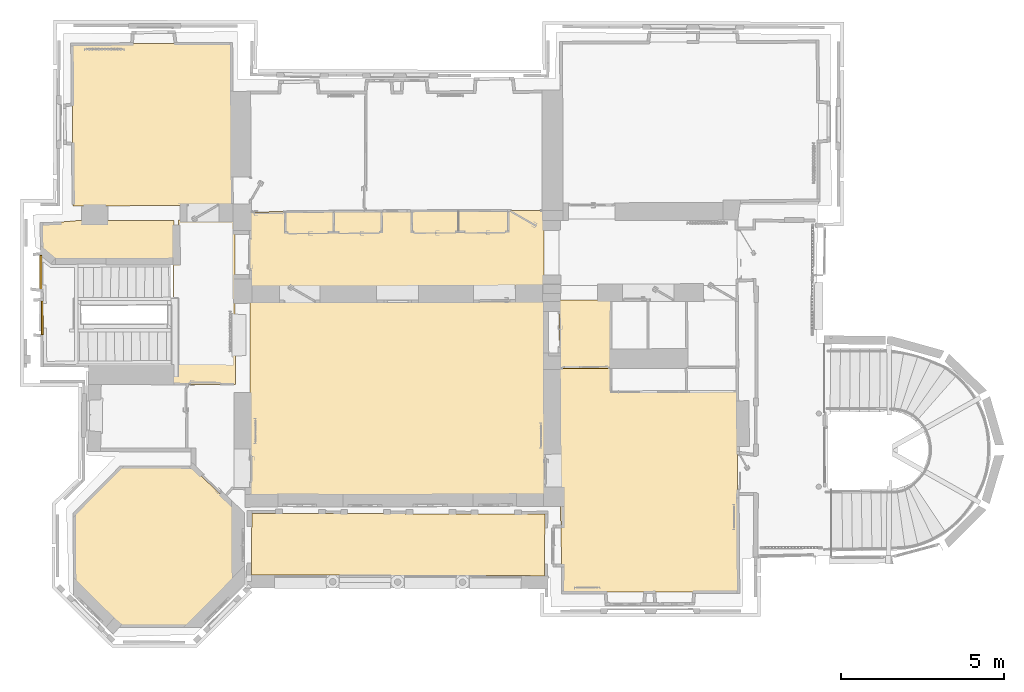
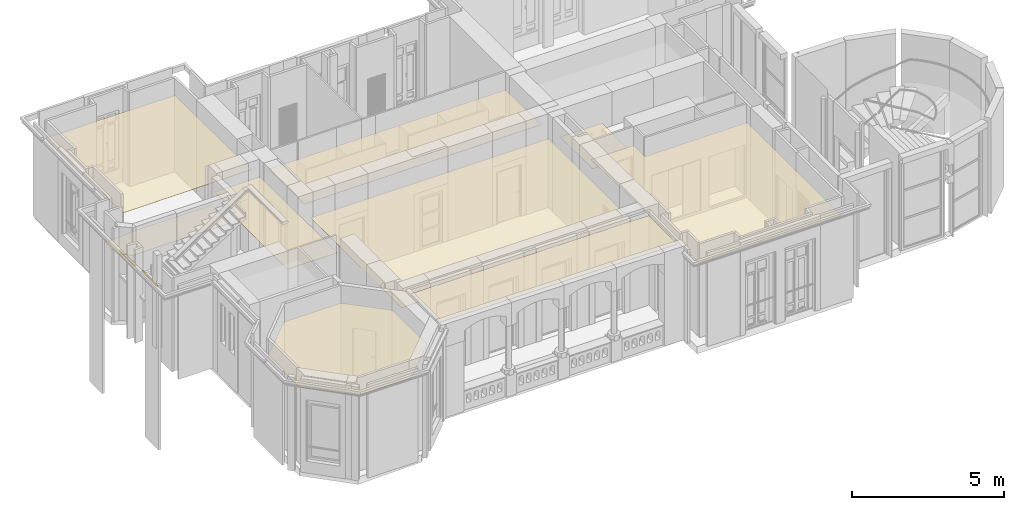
# One storey, part 54 of 66: 9 coverings, 2 railings.
"""IFC2X3 building model written with IfcOpenShell, lengths in centimetres."""

from ifc_helpers import new_model, entity, si_unit, converted_unit, direction, frame, origin, origin_with_axes, place, context, subcontext, project, spatial, faceted_brep, shape, source, transform, mapped, material, material_list, type_object, element, save


model = new_model("IFC2X3")

# Units and contexts
model_context = context("Model", 3, precision=0.0001, world=origin(), true_north=direction((0.225632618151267, 0.974212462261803, 0.0)))
body_context = subcontext(model_context, "Body", "Model", "MODEL_VIEW")
ifc_project = project(units=[si_unit("LENGTHUNIT", "METRE", prefix="CENTI"), si_unit("AREAUNIT", "SQUARE_METRE", prefix="CENTI"), si_unit("VOLUMEUNIT", "CUBIC_METRE", prefix="CENTI"), converted_unit("PLANEANGLEUNIT", "DEGREE", entity("IfcRatioMeasure", 0.0174532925), si_unit("PLANEANGLEUNIT", "RADIAN"), dimensions=[0, 0, 0, 0, 0, 0, 0])], contexts=[model_context])

# Site, building, storey
site_placement = place(None, origin_with_axes())
site = spatial("IfcSite", under=ifc_project, at=site_placement, Name="Default Site", CompositionType="ELEMENT")
building_placement = place(site_placement, origin_with_axes())
building = spatial("IfcBuilding", under=site, at=building_placement, Name="Default Building", CompositionType="ELEMENT")
storey_placement = place(building_placement, frame((0.0, 0.0, 477.795358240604), z_axis=(0.0, 0.0, 1.0), x_axis=(1.0, 0.0, 0.0)))
storey = spatial("IfcBuildingStorey", under=building, at=storey_placement, Name="Niveau 1", CompositionType="ELEMENT", Elevation=477.795358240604)

# Railings
ifc_material_1 = material(Name="Fer")
ifc_material_2 = material(Name="Aluminium mat")
ifc_material_list = material_list([ifc_material_1, ifc_material_2])
railing_type = type_object("IfcRailingType", Name="Balustrade [FV]", PredefinedType="NOTDEFINED", material=ifc_material_list)
shared_shape_1 = source(origin_with_axes(), body_context, "Body", "Brep", [
    faceted_brep([(-1304.91361618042, -53.6914587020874, 757.795381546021), (-1310.91356277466, -53.6801934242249, 757.795381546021), (-1310.7177734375, 50.6412267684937, 757.795381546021), (-1304.71782684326, 50.6299614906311, 757.795381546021), (-1310.91356277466, -53.6801934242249, 760.79535484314), (-1310.71777343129, 50.641226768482, 760.79535484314), (-1310.71777343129, 50.641226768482, 757.795381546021), (-1304.91361618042, -53.6914587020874, 760.79535484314), (-1304.71782684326, 50.6299614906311, 760.79535484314), (-1310.7177734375, 50.6412267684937, 760.79535484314), (-1304.71782683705, 50.6299614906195, 757.795381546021), (-1304.71782683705, 50.6299614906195, 760.79535484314), (-1310.71777344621, 50.6412221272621, 757.795381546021), (-1310.71777344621, 50.6412221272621, 760.79535484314), (-1310.91356278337, -53.6801980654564, 760.79535484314), (-1310.91356278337, -53.6801980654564, 757.795381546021)], [[[0, 1, 2, 3]], [[1, 4, 5, 6]], [[4, 7, 8, 9]], [[7, 0, 10, 11]], [[3, 12, 13, 8]], [[7, 14, 15, 0]]]),
])
shared_shape_2 = source(origin_with_axes(), body_context, "Body", "Brep", [
    faceted_brep([(-1307.25421905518, -48.6870557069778, 650.645351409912), (-1309.7541809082, -48.682364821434, 650.645351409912), (-1309.57717895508, 45.6390708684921, 650.645351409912), (-1307.07721710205, 45.6343799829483, 650.645351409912), (-1309.7541809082, -48.682364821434, 652.145385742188), (-1309.57717895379, 45.6390708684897, 652.145385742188), (-1309.57717895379, 45.6390708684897, 650.645351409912), (-1307.25421905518, -48.6870557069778, 652.145385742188), (-1307.07721710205, 45.6343799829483, 652.145385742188), (-1309.57717895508, 45.6390708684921, 652.145385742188), (-1307.07721710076, 45.6343799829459, 650.645351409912), (-1307.07721710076, 45.6343799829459, 652.145385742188), (-1309.57717895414, 45.6390713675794, 650.645351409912), (-1309.57717895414, 45.6390713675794, 652.145385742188), (-1309.75418090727, -48.6823643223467, 652.145385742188), (-1309.75418090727, -48.6823643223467, 650.645351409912)], [[[0, 1, 2, 3]], [[1, 4, 5, 6]], [[4, 7, 8, 9]], [[7, 0, 10, 11]], [[3, 12, 13, 8]], [[7, 14, 15, 0]]]),
])
shared_shape_3 = source(origin_with_axes(), body_context, "Body", "Brep", [
    faceted_brep([(0.999999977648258, 1.99999995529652, 0.0), (-0.999999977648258, 1.99999995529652, 25.0), (0.999999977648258, 1.99999995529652, 25.0), (-0.999999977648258, 1.99999995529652, 0.0), (-0.999999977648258, -1.99999995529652, 0.0), (-0.999999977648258, -1.99999995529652, 25.0), (0.999999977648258, -1.99999995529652, 25.0), (0.999999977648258, -1.99999995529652, 0.0)], [[[0, 1, 2]], [[1, 0, 3]], [[4, 1, 3]], [[1, 4, 5]], [[4, 6, 5]], [[6, 4, 7]], [[6, 0, 2]], [[0, 6, 7]], [[6, 1, 5]], [[1, 6, 2]], [[0, 4, 3]], [[4, 0, 7]]]),
])
shared_shape_4 = source(origin_with_axes(), body_context, "Body", "Brep", [
    faceted_brep([(0.700000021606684, 0.700000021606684, 0.0), (-0.700000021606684, 0.700000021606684, 80.0000011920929), (0.700000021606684, 0.700000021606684, 80.0000011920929), (-0.700000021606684, 0.700000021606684, 0.0), (-0.700000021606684, -0.700000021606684, 0.0), (-0.700000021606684, -0.700000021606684, 80.0000011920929), (0.700000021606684, -0.700000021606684, 80.0000011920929), (0.700000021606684, -0.700000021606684, 0.0)], [[[0, 1, 2]], [[1, 0, 3]], [[4, 1, 3]], [[1, 4, 5]], [[4, 6, 5]], [[6, 4, 7]], [[6, 0, 2]], [[0, 6, 7]], [[6, 1, 5]], [[1, 6, 2]], [[0, 4, 3]], [[4, 0, 7]]]),
])
railing_1_placement = place(storey_placement, frame((-1307.7272153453, 45.63560005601, 165.6), z_axis=(0.0, 0.0, 1.0), x_axis=(1.0, 0.0, 0.0)))
element("IfcRailing", 1, at=railing_1_placement, inside=storey, type_object=railing_type, material=ifc_material_list, Name="Garde-corps 133768", PredefinedType="NOTDEFINED", shapes=[
    shape(body_context, "Body", "MappedRepresentation", [mapped(shared_shape_1, transform((1307.7272153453, -45.63560005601, -643.395358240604), x_axis=(1.0, 0.0, 0.0), y_axis=(0.0, 1.0, 0.0), z_axis=(0.0, 0.0, 1.0), scale=1.0, scale2=1.0, scale3=1.0, uniform=False))]),
    shape(body_context, "Body", "MappedRepresentation", [mapped(shared_shape_2, transform((1307.7272153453, -45.63560005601, -643.395358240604), x_axis=(1.0, 0.0, 0.0), y_axis=(0.0, 1.0, 0.0), z_axis=(0.0, 0.0, 1.0), scale=1.0, scale2=1.0, scale3=1.0, uniform=False))]),
    shape(body_context, "Body", "MappedRepresentation", [mapped(shared_shape_3, transform((-2.61708180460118e-05, -1.15807609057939e-06, 1.79648403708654e-05), x_axis=(-0.00187603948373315, -0.999998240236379, 0.0), y_axis=(0.999998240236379, -0.00187603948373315, 0.0), z_axis=(0.0, 0.0, 1.0), scale=0.999999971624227, scale2=0.999999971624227, scale3=4.63600015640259, uniform=False))]),
    shape(body_context, "Body", "MappedRepresentation", [mapped(shared_shape_3, transform((-0.176932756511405, -94.3214368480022, 1.79648403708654e-05), x_axis=(-0.00187603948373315, -0.999998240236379, 0.0), y_axis=(0.999998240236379, -0.00187603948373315, 0.0), z_axis=(0.0, 0.0, 1.0), scale=0.999999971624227, scale2=0.999999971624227, scale3=4.63600015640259, uniform=False))]),
    shape(body_context, "Body", "MappedRepresentation", [mapped(shared_shape_4, transform((-0.620963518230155, -11.1596566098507, 8.70000728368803), x_axis=(-0.00187603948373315, -0.999998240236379, 0.0), y_axis=(0.999998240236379, -0.00187603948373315, 0.0), z_axis=(0.0, 0.0, 1.0), scale=0.999999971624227, scale2=0.999999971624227, scale3=1.32124996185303, uniform=False))]),
    shape(body_context, "Body", "MappedRepresentation", [mapped(shared_shape_4, transform((-0.643470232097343, -23.1596347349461, 8.70000728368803), x_axis=(-0.00187603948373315, -0.999998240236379, 0.0), y_axis=(0.999998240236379, -0.00187603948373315, 0.0), z_axis=(0.0, 0.0, 1.0), scale=0.999999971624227, scale2=0.999999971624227, scale3=1.32124996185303, uniform=False))]),
    shape(body_context, "Body", "MappedRepresentation", [mapped(shared_shape_4, transform((-0.66597694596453, -35.1596136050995, 8.70000728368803), x_axis=(-0.00187603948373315, -0.999998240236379, 0.0), y_axis=(0.999998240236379, -0.00187603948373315, 0.0), z_axis=(0.0, 0.0, 1.0), scale=0.999999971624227, scale2=0.999999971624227, scale3=1.32124996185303, uniform=False))]),
    shape(body_context, "Body", "MappedRepresentation", [mapped(shared_shape_4, transform((-0.688483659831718, -47.1595921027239, 8.70000728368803), x_axis=(-0.00187603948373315, -0.999998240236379, 0.0), y_axis=(0.999998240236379, -0.00187603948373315, 0.0), z_axis=(0.0, 0.0, 1.0), scale=0.999999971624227, scale2=0.999999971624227, scale3=1.32124996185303, uniform=False))]),
    shape(body_context, "Body", "MappedRepresentation", [mapped(shared_shape_4, transform((-0.710990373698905, -59.1595706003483, 8.70000728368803), x_axis=(-0.00187603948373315, -0.999998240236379, 0.0), y_axis=(0.999998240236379, -0.00187603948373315, 0.0), z_axis=(0.0, 0.0, 1.0), scale=0.999999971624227, scale2=0.999999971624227, scale3=1.32124996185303, uniform=False))]),
    shape(body_context, "Body", "MappedRepresentation", [mapped(shared_shape_4, transform((-0.733497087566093, -71.1595487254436, 8.70000728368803), x_axis=(-0.00187603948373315, -0.999998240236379, 0.0), y_axis=(0.999998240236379, -0.00187603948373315, 0.0), z_axis=(0.0, 0.0, 1.0), scale=0.999999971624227, scale2=0.999999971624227, scale3=1.32124996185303, uniform=False))]),
    shape(body_context, "Body", "MappedRepresentation", [mapped(shared_shape_4, transform((-0.75600380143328, -83.1595283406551, 8.70000728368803), x_axis=(-0.00187603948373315, -0.999998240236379, 0.0), y_axis=(0.999998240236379, -0.00187603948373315, 0.0), z_axis=(0.0, 0.0, 1.0), scale=0.999999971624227, scale2=0.999999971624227, scale3=1.32124996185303, uniform=False))]),
])
shared_shape_5 = source(origin_with_axes(), body_context, "Body", "Brep", [
    faceted_brep([(-1301.09052658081, -192.814266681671, 757.795381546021), (-1307.09047317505, -192.825710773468, 757.795381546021), (-1307.28731155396, -89.7055923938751, 757.795381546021), (-1301.28736495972, -89.6941363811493, 757.795381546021), (-1307.09047317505, -192.825710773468, 760.79535484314), (-1307.28731154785, -89.7055923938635, 760.79535484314), (-1307.28731154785, -89.7055923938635, 757.795381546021), (-1301.09052658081, -192.814266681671, 760.79535484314), (-1301.28736495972, -89.6941363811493, 760.79535484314), (-1307.28731155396, -89.7055923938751, 760.79535484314), (-1301.28736497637, -89.6941363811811, 757.795381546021), (-1301.28736497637, -89.6941363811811, 760.79535484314), (-1307.28731155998, -89.7055892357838, 757.795381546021), (-1307.28731155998, -89.7055892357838, 760.79535484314), (-1307.09047315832, -192.825719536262, 760.79535484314), (-1307.09047315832, -192.825719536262, 757.795381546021)], [[[0, 1, 2, 3]], [[1, 4, 5, 6]], [[4, 7, 8, 9]], [[7, 0, 10, 11]], [[3, 12, 13, 8]], [[7, 14, 15, 0]]]),
])
shared_shape_6 = source(origin_with_axes(), body_context, "Body", "Brep", [
    faceted_brep([(-1303.45001220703, -187.818765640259, 650.645351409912), (-1305.94997406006, -187.823534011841, 650.645351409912), (-1306.12773895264, -94.7033822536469, 650.645351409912), (-1303.62777709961, -94.6986138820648, 650.645351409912), (-1305.94997406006, -187.823534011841, 652.145385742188), (-1306.12773895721, -94.7033822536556, 652.145385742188), (-1306.12773895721, -94.7033822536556, 650.645351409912), (-1303.45001220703, -187.818765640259, 652.145385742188), (-1303.62777709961, -94.6986138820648, 652.145385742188), (-1306.12773895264, -94.7033822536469, 652.145385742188), (-1303.62777710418, -94.6986138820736, 650.645351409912), (-1303.62777710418, -94.6986138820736, 652.145385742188), (-1306.12773894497, -94.7033862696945, 650.645351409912), (-1306.12773894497, -94.7033862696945, 652.145385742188), (-1305.94997405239, -187.823538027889, 652.145385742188), (-1305.94997405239, -187.823538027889, 650.645351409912)], [[[0, 1, 2, 3]], [[1, 4, 5, 6]], [[4, 7, 8, 9]], [[7, 0, 10, 11]], [[3, 12, 13, 8]], [[7, 14, 15, 0]]]),
])
railing_2_placement = place(storey_placement, frame((-1304.27778885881, -94.6998527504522, 165.6), z_axis=(0.0, 0.0, 1.0), x_axis=(1.0, 0.0, 0.0)))
element("IfcRailing", 2, at=railing_2_placement, inside=storey, type_object=railing_type, material=ifc_material_list, Name="Garde-corps 133767", PredefinedType="NOTDEFINED", shapes=[
    shape(body_context, "Body", "MappedRepresentation", [mapped(shared_shape_5, transform((1304.27778885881, 94.6998527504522, -643.395358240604), x_axis=(1.0, 0.0, 0.0), y_axis=(0.0, 1.0, 0.0), z_axis=(0.0, 0.0, 1.0), scale=1.0, scale2=1.0, scale3=1.0, uniform=False))]),
    shape(body_context, "Body", "MappedRepresentation", [mapped(shared_shape_6, transform((1304.27778885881, 94.6998527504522, -643.395358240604), x_axis=(1.0, 0.0, 0.0), y_axis=(0.0, 1.0, 0.0), z_axis=(0.0, 0.0, 1.0), scale=1.0, scale2=1.0, scale3=1.0, uniform=False))]),
    shape(body_context, "Body", "MappedRepresentation", [mapped(shared_shape_3, transform((-1.26548641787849e-05, -9.08223996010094e-07, 1.79648403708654e-05), x_axis=(0.00190923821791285, -0.999998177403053, 0.0), y_axis=(0.999998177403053, 0.00190923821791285, 0.0), z_axis=(0.0, 0.0, 1.0), scale=0.999999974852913, scale2=0.999999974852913, scale3=4.63600015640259, uniform=False))]),
    shape(body_context, "Body", "MappedRepresentation", [mapped(shared_shape_3, transform((0.177752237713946, -93.120152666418, 1.79648403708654e-05), x_axis=(0.00190923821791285, -0.999998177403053, 0.0), y_axis=(0.999998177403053, 0.00190923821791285, 0.0), z_axis=(0.0, 0.0, 1.0), scale=0.999999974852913, scale2=0.999999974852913, scale3=4.63600015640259, uniform=False))]),
    shape(body_context, "Body", "MappedRepresentation", [mapped(shared_shape_4, transform((-0.579846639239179, -10.5612823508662, 8.70000728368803), x_axis=(0.00190923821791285, -0.999998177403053, 0.0), y_axis=(0.999998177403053, 0.00190923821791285, 0.0), z_axis=(0.0, 0.0, 1.0), scale=0.999999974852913, scale2=0.999999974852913, scale3=1.32124996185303, uniform=False))]),
    shape(body_context, "Body", "MappedRepresentation", [mapped(shared_shape_4, transform((-0.556958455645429, -22.5612589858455, 8.70000728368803), x_axis=(0.00190923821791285, -0.999998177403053, 0.0), y_axis=(0.999998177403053, 0.00190923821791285, 0.0), z_axis=(0.0, 0.0, 1.0), scale=0.999999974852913, scale2=0.999999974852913, scale3=1.32124996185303, uniform=False))]),
    shape(body_context, "Body", "MappedRepresentation", [mapped(shared_shape_4, transform((-0.533974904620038, -34.5612356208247, 8.70000728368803), x_axis=(0.00190923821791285, -0.999998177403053, 0.0), y_axis=(0.999998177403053, 0.00190923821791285, 0.0), z_axis=(0.0, 0.0, 1.0), scale=0.999999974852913, scale2=0.999999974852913, scale3=1.32124996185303, uniform=False))]),
    shape(body_context, "Body", "MappedRepresentation", [mapped(shared_shape_4, transform((-0.511086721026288, -46.5612241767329, 8.70000728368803), x_axis=(0.00190923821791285, -0.999998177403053, 0.0), y_axis=(0.999998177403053, 0.00190923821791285, 0.0), z_axis=(0.0, 0.0, 1.0), scale=0.999999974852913, scale2=0.999999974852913, scale3=1.32124996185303, uniform=False))]),
    shape(body_context, "Body", "MappedRepresentation", [mapped(shared_shape_4, transform((-0.488198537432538, -58.5612008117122, 8.70000728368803), x_axis=(0.00190923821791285, -0.999998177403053, 0.0), y_axis=(0.999998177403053, 0.00190923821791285, 0.0), z_axis=(0.0, 0.0, 1.0), scale=0.999999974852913, scale2=0.999999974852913, scale3=1.32124996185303, uniform=False))]),
    shape(body_context, "Body", "MappedRepresentation", [mapped(shared_shape_4, transform((-0.465310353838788, -70.5611774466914, 8.70000728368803), x_axis=(0.00190923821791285, -0.999998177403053, 0.0), y_axis=(0.999998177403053, 0.00190923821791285, 0.0), z_axis=(0.0, 0.0, 1.0), scale=0.999999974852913, scale2=0.999999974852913, scale3=1.32124996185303, uniform=False))]),
    shape(body_context, "Body", "MappedRepresentation", [mapped(shared_shape_4, transform((-0.442326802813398, -82.5611540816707, 8.70000728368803), x_axis=(0.00190923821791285, -0.999998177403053, 0.0), y_axis=(0.999998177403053, 0.00190923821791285, 0.0), z_axis=(0.0, 0.0, 1.0), scale=0.999999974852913, scale2=0.999999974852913, scale3=1.32124996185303, uniform=False))]),
])

# Coverings
ifc_material_3 = material(Name="Blanc")
covering_1_placement = place(storey_placement, frame((-1061.64542455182, -599.947203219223, 300.098465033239), z_axis=(0.0, 0.0, 1.0), x_axis=(1.0, 0.0, 0.0)))
element("IfcCovering", 3, at=covering_1_placement, inside=storey, material=ifc_material_3, Name="Faux-plafond 132697", PredefinedType="CEILING", context=body_context, shape_type="Brep", body=[
    faceted_brep([(-143.002211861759, -144.329463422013, 1.39999996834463), (-142.254912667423, -349.929200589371, 1.39999996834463), (1.16215962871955, -488.499032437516, 1.39999996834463), (202.6787878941, -488.870297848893, 1.39999996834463), (345.805657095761, -345.188771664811, 1.39999996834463), (344.869816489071, -121.129428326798, 1.39999996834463), (218.115246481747, -0.133096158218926, 1.39999996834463), (1.21067468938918e-05, -1.09073644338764e-05, 1.39999996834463), (1.21067468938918e-05, -1.09073644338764e-05, 6.07186025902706e-06), (218.115246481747, -0.133096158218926, 6.07186025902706e-06), (344.869816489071, -121.129428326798, 6.07186025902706e-06), (345.805657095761, -345.188771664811, 6.07186025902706e-06), (202.6787878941, -488.870297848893, 6.07186025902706e-06), (1.16215962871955, -488.499032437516, 6.07186025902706e-06), (-142.254912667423, -349.929200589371, 6.07186025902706e-06), (-143.002211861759, -144.329463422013, 6.07186025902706e-06), (-142.254833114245, -349.929200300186, 6.07186025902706e-06), (-142.254833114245, -349.929200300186, 1.39999996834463), (1.16213738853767, -488.499055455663, 6.07186025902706e-06), (1.16213738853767, -488.499055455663, 1.39999996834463), (202.678787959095, -488.870262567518, 6.07186025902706e-06), (202.678787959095, -488.870262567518, 1.39999996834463), (345.805648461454, -345.188763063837, 6.07186025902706e-06), (345.805648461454, -345.188763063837, 1.39999996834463), (344.869822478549, -121.129428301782, 6.07186025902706e-06), (344.869822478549, -121.129428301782, 1.39999996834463), (218.11524162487, -0.133101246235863, 6.07186025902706e-06), (218.11524162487, -0.133101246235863, 1.39999996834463), (1.21265458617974e-05, 2.1533526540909e-05, 6.07186025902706e-06), (1.21265458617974e-05, 2.1533526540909e-05, 1.39999996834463), (-143.002214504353, -144.329460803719, 6.07186025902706e-06), (-143.002214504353, -144.329460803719, 1.39999996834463)], [[[0, 1, 2, 3, 4, 5, 6, 7]], [[8, 9, 10, 11, 12, 13, 14, 15]], [[15, 16, 17, 0]], [[14, 18, 19, 1]], [[13, 20, 21, 2]], [[12, 22, 23, 3]], [[11, 24, 25, 4]], [[10, 26, 27, 5]], [[9, 28, 29, 6]], [[8, 30, 31, 7]]]),
])
covering_2_placement = place(storey_placement, frame((-899.477841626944, -345.760500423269, 300.506157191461), z_axis=(0.0, 0.0, 1.0), x_axis=(1.0, 0.0, 0.0)))
element("IfcCovering", 4, at=covering_2_placement, inside=storey, material=ifc_material_3, Name="Faux-plafond 132688", PredefinedType="CEILING", context=body_context, shape_type="Brep", body=[
    faceted_brep([(16.0156986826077, 370.072937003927, 1.40000358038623), (-1.77643083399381, 369.987513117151, 1.40000358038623), (-2.16848238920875e-05, 1.19131371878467e-05, 1.40000358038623), (189.788558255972, -0.561034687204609, 1.40000358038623), (187.746741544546, 504.981839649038, 1.40000358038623), (14.1194126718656, 504.675590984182, 1.40000358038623), (14.1194126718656, 504.675590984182, 9.6839018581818e-06), (187.746741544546, 504.981839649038, 9.6839018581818e-06), (189.788558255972, -0.561034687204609, 9.6839018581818e-06), (-2.16848238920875e-05, 1.19131371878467e-05, 9.6839018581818e-06), (-1.77643083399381, 369.987513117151, 9.6839018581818e-06), (16.0156986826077, 370.072937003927, 9.6839018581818e-06), (-1.77643083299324, 369.987512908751, 9.6839018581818e-06), (-1.77643083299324, 369.987512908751, 1.40000358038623), (-3.59682191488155e-05, 1.18445593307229e-05, 9.6839018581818e-06), (-3.59682191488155e-05, 1.18445593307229e-05, 1.40000358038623), (189.78855829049, -0.561023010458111, 9.6839018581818e-06), (189.78855829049, -0.561023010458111, 1.40000358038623), (187.746718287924, 504.981839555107, 9.6839018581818e-06), (187.746718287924, 504.981839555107, 1.40000358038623), (14.1194126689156, 504.675592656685, 9.6839018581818e-06), (14.1194126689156, 504.675592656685, 1.40000358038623), (16.0156867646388, 370.072936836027, 9.6839018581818e-06), (16.0156867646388, 370.072936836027, 1.40000358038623)], [[[0, 1, 2, 3, 4, 5]], [[6, 7, 8, 9, 10, 11]], [[11, 12, 13, 0]], [[10, 14, 15, 1]], [[9, 16, 17, 2]], [[8, 18, 19, 3]], [[7, 20, 21, 4]], [[6, 22, 23, 5]]]),
])
covering_3_placement = place(storey_placement, frame((444.480789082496, -296.261207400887, 296.615015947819), z_axis=(0.0, 0.0, 1.0), x_axis=(1.0, 0.0, 0.0)))
element("IfcCovering", 5, at=covering_3_placement, inside=storey, material=ifc_material_3, Name="Faux-plafond 128665", PredefinedType="CEILING", context=body_context, shape_type="Brep", body=[
    faceted_brep([(-149.753201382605, -688.527305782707, 1.40001056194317), (390.173256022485, -687.696464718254, 1.40001056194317), (389.224731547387, -71.294983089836, 1.40001056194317), (-0.204265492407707, -72.9048807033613, 1.40001056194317), (0.214063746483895, 0.00170880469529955, 1.40001056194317), (-162.898743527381, -0.266583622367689, 1.40001056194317), (-162.898743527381, -0.266583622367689, 1.66654587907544e-05), (0.214063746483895, 0.00170880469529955, 1.66654587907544e-05), (-0.204265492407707, -72.9048807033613, 1.66654587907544e-05), (389.224731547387, -71.294983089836, 1.66654587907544e-05), (390.173256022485, -687.696464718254, 1.66654587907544e-05), (-149.753201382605, -688.527305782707, 1.66654587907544e-05), (390.17325606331, -687.696491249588, 1.66654587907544e-05), (390.17325606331, -687.696491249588, 1.40001056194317), (389.224765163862, -71.2949830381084, 1.66654587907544e-05), (389.224765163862, -71.2949830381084, 1.40001056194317), (-0.204265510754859, -72.9048762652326, 1.66654587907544e-05), (-0.204265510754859, -72.9048762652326, 1.40001056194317), (0.214041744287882, 0.00170893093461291, 1.66654587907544e-05), (0.214041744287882, 0.00170893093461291, 1.40001056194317), (-162.898743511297, -0.266593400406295, 1.66654587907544e-05), (-162.898743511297, -0.266593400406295, 1.40001056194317), (-149.753189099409, -688.527305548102, 1.66654587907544e-05), (-149.753189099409, -688.527305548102, 1.40001056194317)], [[[0, 1, 2, 3, 4, 5]], [[6, 7, 8, 9, 10, 11]], [[11, 12, 13, 0]], [[10, 14, 15, 1]], [[9, 16, 17, 2]], [[8, 18, 19, 3]], [[7, 20, 21, 4]], [[6, 22, 23, 5]]]),
])
covering_4_placement = place(storey_placement, frame((-665.368569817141, -91.1362139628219, 271.115015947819), z_axis=(0.0, 0.0, 1.0), x_axis=(1.0, 0.0, 0.0)))
element("IfcCovering", 6, at=covering_4_placement, inside=storey, material=ifc_material_3, Name="Faux-plafond 111276", PredefinedType="CEILING", context=body_context, shape_type="Brep", body=[
    faceted_brep([(0.576938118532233, -597.231820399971, 1.39999911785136), (907.860411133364, -594.561007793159, 1.39999911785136), (906.048406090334, 2.13311595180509, 1.39999911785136), (1.28408222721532e-05, 2.80597683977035e-06, 1.39999911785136), (1.28408222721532e-05, 2.80597683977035e-06, 5.22136698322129e-06), (906.048406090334, 2.13311595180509, 5.22136698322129e-06), (907.860411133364, -594.561007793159, 5.22136698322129e-06), (0.576938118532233, -597.231820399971, 5.22136698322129e-06), (907.860411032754, -594.56097361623, 5.22136698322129e-06), (907.860411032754, -594.56097361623, 1.39999911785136), (906.048424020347, 2.13311600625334, 5.22136698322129e-06), (906.048424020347, 2.13311600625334, 1.39999911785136), (1.28433242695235e-05, 1.74324391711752e-06, 5.22136698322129e-06), (1.28433242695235e-05, 1.74324391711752e-06, 1.39999911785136), (0.576928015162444, -597.231820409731, 5.22136698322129e-06), (0.576928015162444, -597.231820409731, 1.39999911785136)], [[[0, 1, 2, 3]], [[4, 5, 6, 7]], [[7, 8, 9, 0]], [[6, 10, 11, 1]], [[5, 12, 13, 2]], [[4, 14, 15, 3]]]),
])
covering_5_placement = place(storey_placement, frame((-1212.17470137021, 702.649297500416, 302.115015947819), z_axis=(0.0, 0.0, 1.0), x_axis=(1.0, 0.0, 0.0)))
element("IfcCovering", 7, at=covering_5_placement, inside=storey, material=ifc_material_3, Name="Faux-plafond 115764", PredefinedType="CEILING", context=body_context, shape_type="Brep", body=[
    faceted_brep([(3.83739439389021, -500.667204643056, 1.3999933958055), (494.560002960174, -496.420779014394, 1.3999933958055), (490.23032156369, -0.762214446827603, 1.3999933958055), (-3.20465254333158e-07, 9.7505600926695e-06, 1.3999933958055), (-3.20465254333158e-07, 9.7505600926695e-06, -5.00678876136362e-07), (490.23032156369, -0.762214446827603, -5.00678876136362e-07), (494.560002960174, -496.420779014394, -5.00678876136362e-07), (3.83739439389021, -500.667204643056, -5.00678876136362e-07), (494.560003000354, -496.42078365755, -5.00678876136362e-07), (494.560003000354, -496.42078365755, 1.3999933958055), (490.230321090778, -0.762214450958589, -5.00678876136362e-07), (490.230321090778, -0.762214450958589, 1.3999933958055), (-3.44540360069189e-07, -5.73384284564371e-06, -5.00678876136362e-07), (-3.44540360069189e-07, -5.73384284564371e-06, 1.3999933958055), (3.83736989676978, -500.667204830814, -5.00678876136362e-07), (3.83736989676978, -500.667204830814, 1.3999933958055)], [[[0, 1, 2, 3]], [[4, 5, 6, 7]], [[7, 8, 9, 0]], [[6, 10, 11, 1]], [[5, 12, 13, 2]], [[4, 14, 15, 3]]]),
])
covering_6_placement = place(storey_placement, frame((-665.341544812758, 184.764821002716, 298.706157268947), z_axis=(0.0, 0.0, 1.0), x_axis=(1.0, 0.0, 0.0)))
element("IfcCovering", 8, at=covering_6_placement, inside=storey, material=ifc_material_3, Name="Faux-plafond 104278", PredefinedType="CEILING", context=body_context, shape_type="Brep", body=[
    faceted_brep([(1.55747002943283, -232.664302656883, 1.39999091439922), (905.154324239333, -227.460012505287, 1.39999091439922), (903.961611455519, 4.33670811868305, 1.39999091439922), (-2.31804060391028e-05, 5.29504413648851e-06, 1.39999091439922), (-2.31804060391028e-05, 5.29504413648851e-06, -2.98208515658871e-06), (903.961611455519, 4.33670811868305, -2.98208515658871e-06), (905.154324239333, -227.460012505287, -2.98208515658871e-06), (1.55747002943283, -232.664302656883, -2.98208515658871e-06), (905.15432423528, -227.460011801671, -2.98208515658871e-06), (905.15432423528, -227.460011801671, 1.39999091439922), (903.961606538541, 4.33670809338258, -2.98208515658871e-06), (903.961606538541, 4.33670809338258, 1.39999091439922), (-2.31583843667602e-05, 7.04753617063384e-07, -2.98208515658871e-06), (-2.31583843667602e-05, 7.04753617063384e-07, 1.39999091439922), (1.55746112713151, -232.664302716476, -2.98208515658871e-06), (1.55746112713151, -232.664302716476, 1.39999091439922)], [[[0, 1, 2, 3]], [[4, 5, 6, 7]], [[7, 8, 9, 0]], [[6, 10, 11, 1]], [[5, 12, 13, 2]], [[4, 14, 15, 3]]]),
])
covering_7_placement = place(storey_placement, frame((-1306.65010082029, 148.097189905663, 251.115015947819), z_axis=(0.0, 0.0, 1.0), x_axis=(1.0, 0.0, 0.0)))
element("IfcCovering", 9, at=covering_7_placement, inside=storey, material=ifc_material_3, Name="Faux-plafond 116302", PredefinedType="CEILING", context=body_context, shape_type="Brep", body=[
    faceted_brep([(1.48929225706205, -76.1723485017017, 1.4000181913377), (41.284214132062, -110.338416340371, 1.4000181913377), (409.419475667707, -109.396496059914, 1.4000181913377), (407.79555904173, 10.649434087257, 1.4000181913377), (118.404136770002, 10.39282417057, 1.4000181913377), (3.44445620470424e-05, 3.33545648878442e-06, 1.4000181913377), (3.44445620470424e-05, 3.33545648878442e-06, -2.33888624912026e-05), (118.404136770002, 10.39282417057, -2.33888624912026e-05), (407.79555904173, 10.649434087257, -2.33888624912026e-05), (409.419475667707, -109.396496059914, -2.33888624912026e-05), (41.284214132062, -110.338416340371, -2.33888624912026e-05), (1.48929225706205, -76.1723485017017, -2.33888624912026e-05), (41.2842221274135, -110.338407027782, -2.33888624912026e-05), (41.2842221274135, -110.338407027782, 1.4000181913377), (409.419475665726, -109.396495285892, -2.33888624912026e-05), (409.419475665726, -109.396495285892, 1.4000181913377), (407.795553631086, 10.6494340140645, -2.33888624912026e-05), (407.795553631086, 10.6494340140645, 1.4000181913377), (118.404136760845, 10.392834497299, -2.33888624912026e-05), (118.404136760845, 10.392834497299, 1.4000181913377), (3.50817693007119e-05, -3.92416060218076e-06, -2.33888624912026e-05), (3.50817693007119e-05, -3.92416060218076e-06, 1.4000181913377), (1.48931011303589, -76.1723481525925, -2.33888624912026e-05), (1.48931011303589, -76.1723481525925, 1.4000181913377)], [[[0, 1, 2, 3, 4, 5]], [[6, 7, 8, 9, 10, 11]], [[11, 12, 13, 0]], [[10, 14, 15, 1]], [[9, 16, 17, 2]], [[8, 18, 19, 3]], [[7, 20, 21, 4]], [[6, 22, 23, 5]]]),
])
covering_8_placement = place(storey_placement, frame((285.362387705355, -85.6410325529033, 259.306157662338), z_axis=(0.0, 0.0, 1.0), x_axis=(1.0, 0.0, 0.0)))
element("IfcCovering", 10, at=covering_8_placement, inside=storey, material=ifc_material_3, Name="Faux-plafond 120672", PredefinedType="CEILING", context=body_context, shape_type="Brep", body=[
    faceted_brep([(0.958346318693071, -211.886781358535, 1.39998518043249), (159.332465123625, -210.618466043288, 1.39998518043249), (159.639834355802, 0.143575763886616, 1.39998518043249), (-1.00186356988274e-06, 9.5551655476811e-08, 1.39998518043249), (-1.00186356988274e-06, 9.5551655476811e-08, -8.71605188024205e-06), (159.639834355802, 0.143575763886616, -8.71605188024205e-06), (159.332465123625, -210.618466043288, -8.71605188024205e-06), (0.958346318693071, -211.886781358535, -8.71605188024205e-06), (159.332465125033, -210.618466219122, -8.71605188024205e-06), (159.332465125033, -210.618466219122, 1.39998518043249), (159.639837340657, 0.14357575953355, -8.71605188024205e-06), (159.639837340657, 0.14357575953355, 1.39998518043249), (-1.00409013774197e-06, 2.57128490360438e-06, -8.71605188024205e-06), (-1.00409013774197e-06, 2.57128490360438e-06, 1.39998518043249), (0.958354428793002, -211.886781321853, -8.71605188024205e-06), (0.958354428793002, -211.886781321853, 1.39998518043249)], [[[0, 1, 2, 3]], [[4, 5, 6, 7]], [[7, 8, 9, 0]], [[6, 10, 11, 1]], [[5, 12, 13, 2]], [[4, 14, 15, 3]]]),
])
covering_9_placement = place(storey_placement, frame((-659.293173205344, -742.185105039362, 358.403048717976), z_axis=(0.0, 0.0, 1.0), x_axis=(1.0, 0.0, 0.0)))
element("IfcCovering", 11, at=covering_9_placement, inside=storey, material=ifc_material_3, Name="Faux-plafond 449649", PredefinedType="CEILING", context=body_context, shape_type="Brep", body=[
    faceted_brep([(-0.609351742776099, -188.940345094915, 1.40001223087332), (899.689553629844, -191.975222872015, 1.40001223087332), (901.113174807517, -2.334128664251, 1.40001223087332), (-1.53830832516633e-06, -1.07748467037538e-05, 1.40001223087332), (-1.53830832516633e-06, -1.07748467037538e-05, 1.83343889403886e-05), (901.113174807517, -2.334128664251, 1.83343889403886e-05), (899.689553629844, -191.975222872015, 1.83343889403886e-05), (-0.609351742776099, -188.940345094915, 1.83343889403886e-05), (899.689553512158, -191.975257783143, 1.83343889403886e-05), (899.689553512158, -191.975257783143, 1.40001223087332), (901.113186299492, -2.33412875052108, 1.83343889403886e-05), (901.113186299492, -2.33412875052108, 1.40001223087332), (-1.49923916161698e-06, 4.30815776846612e-06, 1.83343889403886e-05), (-1.49923916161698e-06, 4.30815776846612e-06, 1.40001223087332), (-0.609329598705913, -188.940345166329, 1.83343889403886e-05), (-0.609329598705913, -188.940345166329, 1.40001223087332)], [[[0, 1, 2, 3]], [[4, 5, 6, 7]], [[7, 8, 9, 0]], [[6, 10, 11, 1]], [[5, 12, 13, 2]], [[4, 14, 15, 3]]]),
])

save(model, "model.ifc")
